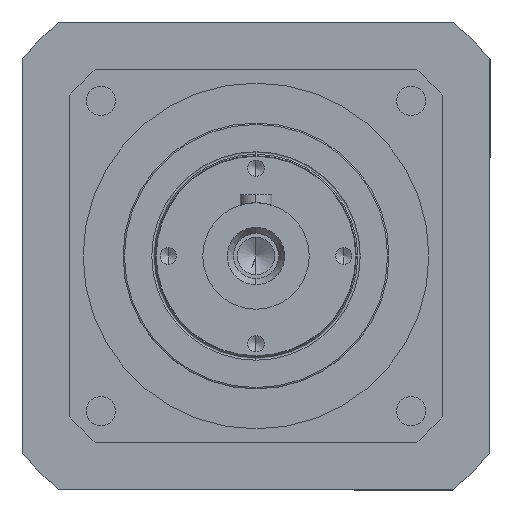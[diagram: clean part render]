
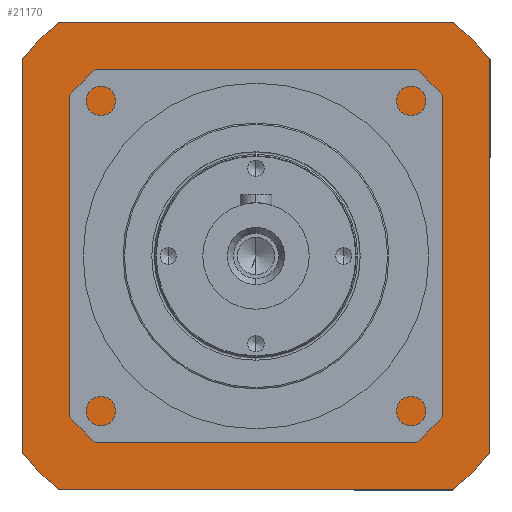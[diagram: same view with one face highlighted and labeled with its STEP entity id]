
A CAD part, left-side view. The second image highlights one B-rep face of the part: STEP entity #21170.
In plain terms, the highlighted planar face has unit normal (-1, 0, 0) as drawn and (0, 0, 1) by its records, which use the part's own axes.
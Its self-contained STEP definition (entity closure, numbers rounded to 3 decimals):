
#171 = EDGE_CURVE ( 'NONE', #4530, #13572, #26099, .T. ) ;
#801 = FACE_OUTER_BOUND ( 'NONE', #9686, .T. ) ;
#2079 = ORIENTED_EDGE ( 'NONE', *, *, #2394, .F. ) ;
#2317 = CARTESIAN_POINT ( 'NONE',  ( 0., 0., 0. ) ) ;
#2354 = LINE ( 'NONE', #32706, #2557 ) ;
#2394 = EDGE_CURVE ( 'NONE', #30024, #10542, #9685, .T. ) ;
#2541 = FACE_BOUND ( 'NONE', #35596, .T. ) ;
#2557 = VECTOR ( 'NONE', #35382, 1000. ) ;
#4227 = AXIS2_PLACEMENT_3D ( 'NONE', #18700, #18654, #18609 ) ;
#4530 = VERTEX_POINT ( 'NONE', #18509 ) ;
#5090 = DIRECTION ( 'NONE',  ( 1., 0., 0. ) ) ;
#5130 = AXIS2_PLACEMENT_3D ( 'NONE', #16892, #16853, #16844 ) ;
#5290 = DIRECTION ( 'NONE',  ( 1., 0., 0. ) ) ;
#6077 = EDGE_CURVE ( 'NONE', #29967, #14484, #13460, .T. ) ;
#6152 = DIRECTION ( 'NONE',  ( 0., 0., -1. ) ) ;
#6609 = CARTESIAN_POINT ( 'NONE',  ( -88., -74.034, 0. ) ) ;
#6642 = VERTEX_POINT ( 'NONE', #27883 ) ;
#8105 = DIRECTION ( 'NONE',  ( 0., 0., -1. ) ) ;
#8458 = CARTESIAN_POINT ( 'NONE',  ( -62.5, 0., 0. ) ) ;
#9685 = LINE ( 'NONE', #22574, #9716 ) ;
#9686 = EDGE_LOOP ( 'NONE', ( #2079, #20781, #23450, #33493, #30436, #11826, #31786, #20815 ) ) ;
#9716 = VECTOR ( 'NONE', #14429, 1000. ) ;
#9788 = CARTESIAN_POINT ( 'NONE',  ( 74.034, -88., 0. ) ) ;
#9840 = CIRCLE ( 'NONE', #21527, 115. ) ;
#10542 = VERTEX_POINT ( 'NONE', #22115 ) ;
#11264 = AXIS2_PLACEMENT_3D ( 'NONE', #12902, #8105, #5290 ) ;
#11488 = VERTEX_POINT ( 'NONE', #8458 ) ;
#11647 = LINE ( 'NONE', #13060, #11654 ) ;
#11654 = VECTOR ( 'NONE', #29992, 1000. ) ;
#11826 = ORIENTED_EDGE ( 'NONE', *, *, #171, .F. ) ;
#12129 = CIRCLE ( 'NONE', #27604, 115. ) ;
#12736 = CARTESIAN_POINT ( 'NONE',  ( -74.034, 88., 0. ) ) ;
#12902 = CARTESIAN_POINT ( 'NONE',  ( 0., 0., 0. ) ) ;
#12905 = CARTESIAN_POINT ( 'NONE',  ( 0., 62.5, 0. ) ) ;
#13060 = CARTESIAN_POINT ( 'NONE',  ( -88., -88., 0. ) ) ;
#13460 = LINE ( 'NONE', #25184, #23254 ) ;
#13572 = VERTEX_POINT ( 'NONE', #9788 ) ;
#14429 = DIRECTION ( 'NONE',  ( 1., 0., 0. ) ) ;
#14484 = VERTEX_POINT ( 'NONE', #29506 ) ;
#14642 = EDGE_CURVE ( 'NONE', #14484, #30024, #12129, .T. ) ;
#16414 = AXIS2_PLACEMENT_3D ( 'NONE', #2317, #22292, #5090 ) ;
#16844 = DIRECTION ( 'NONE',  ( 1., 0., 0. ) ) ;
#16853 = DIRECTION ( 'NONE',  ( 0., 0., 1. ) ) ;
#16892 = CARTESIAN_POINT ( 'NONE',  ( 0., 0., 0. ) ) ;
#17396 = CIRCLE ( 'NONE', #5130, 62.5 ) ;
#17943 = EDGE_CURVE ( 'NONE', #11488, #22131, #17396, .T. ) ;
#18401 = CIRCLE ( 'NONE', #4227, 62.5 ) ;
#18509 = CARTESIAN_POINT ( 'NONE',  ( 88., -74.034, 0. ) ) ;
#18551 = CIRCLE ( 'NONE', #16414, 115. ) ;
#18609 = DIRECTION ( 'NONE',  ( 1., 0., 0. ) ) ;
#18654 = DIRECTION ( 'NONE',  ( 0., 0., 1. ) ) ;
#18700 = CARTESIAN_POINT ( 'NONE',  ( 0., 0., 0. ) ) ;
#19464 = EDGE_CURVE ( 'NONE', #22131, #11488, #18401, .T. ) ;
#19473 = CARTESIAN_POINT ( 'NONE',  ( 62.5, 0., 0. ) ) ;
#20781 = ORIENTED_EDGE ( 'NONE', *, *, #14642, .F. ) ;
#20815 = ORIENTED_EDGE ( 'NONE', *, *, #25300, .F. ) ;
#21170 = ADVANCED_FACE ( 'NONE', ( #2541, #801 ), #33293, .F. ) ;
#21527 = AXIS2_PLACEMENT_3D ( 'NONE', #23376, #6152, #26224 ) ;
#22115 = CARTESIAN_POINT ( 'NONE',  ( 74.034, 88., 0. ) ) ;
#22131 = VERTEX_POINT ( 'NONE', #19473 ) ;
#22292 = DIRECTION ( 'NONE',  ( 0., 0., -1. ) ) ;
#22574 = CARTESIAN_POINT ( 'NONE',  ( -88., 88., 0. ) ) ;
#22646 = CARTESIAN_POINT ( 'NONE',  ( -74.034, -88., 0. ) ) ;
#22880 = DIRECTION ( 'NONE',  ( 1., 0., 0. ) ) ;
#22925 = DIRECTION ( 'NONE',  ( 0., 0., -1. ) ) ;
#23045 = CARTESIAN_POINT ( 'NONE',  ( 0., 0., 0. ) ) ;
#23254 = VECTOR ( 'NONE', #24465, 1000. ) ;
#23376 = CARTESIAN_POINT ( 'NONE',  ( 0., 0., 0. ) ) ;
#23450 = ORIENTED_EDGE ( 'NONE', *, *, #6077, .F. ) ;
#24465 = DIRECTION ( 'NONE',  ( 0., 1., 0. ) ) ;
#25184 = CARTESIAN_POINT ( 'NONE',  ( -88., 88., 0. ) ) ;
#25300 = EDGE_CURVE ( 'NONE', #10542, #6642, #18551, .T. ) ;
#26099 = CIRCLE ( 'NONE', #11264, 115. ) ;
#26224 = DIRECTION ( 'NONE',  ( 1., 0., 0. ) ) ;
#26282 = EDGE_CURVE ( 'NONE', #13572, #26544, #11647, .T. ) ;
#26544 = VERTEX_POINT ( 'NONE', #22646 ) ;
#27604 = AXIS2_PLACEMENT_3D ( 'NONE', #23045, #22925, #22880 ) ;
#27883 = CARTESIAN_POINT ( 'NONE',  ( 88., 74.034, 0. ) ) ;
#29506 = CARTESIAN_POINT ( 'NONE',  ( -88., 74.034, 0. ) ) ;
#29967 = VERTEX_POINT ( 'NONE', #6609 ) ;
#29978 = ORIENTED_EDGE ( 'NONE', *, *, #19464, .F. ) ;
#29992 = DIRECTION ( 'NONE',  ( -1., 0., 0. ) ) ;
#30024 = VERTEX_POINT ( 'NONE', #12736 ) ;
#30436 = ORIENTED_EDGE ( 'NONE', *, *, #26282, .F. ) ;
#31376 = EDGE_CURVE ( 'NONE', #6642, #4530, #2354, .T. ) ;
#31786 = ORIENTED_EDGE ( 'NONE', *, *, #31376, .F. ) ;
#31853 = AXIS2_PLACEMENT_3D ( 'NONE', #12905, #33059, #33022 ) ;
#32706 = CARTESIAN_POINT ( 'NONE',  ( 88., 88., 0. ) ) ;
#33022 = DIRECTION ( 'NONE',  ( -1., 0., 0. ) ) ;
#33059 = DIRECTION ( 'NONE',  ( 0., 0., -1. ) ) ;
#33293 = PLANE ( 'NONE',  #31853 ) ;
#33493 = ORIENTED_EDGE ( 'NONE', *, *, #33645, .F. ) ;
#33645 = EDGE_CURVE ( 'NONE', #26544, #29967, #9840, .T. ) ;
#35382 = DIRECTION ( 'NONE',  ( 0., -1., 0. ) ) ;
#35457 = ORIENTED_EDGE ( 'NONE', *, *, #17943, .F. ) ;
#35596 = EDGE_LOOP ( 'NONE', ( #29978, #35457 ) ) ;
